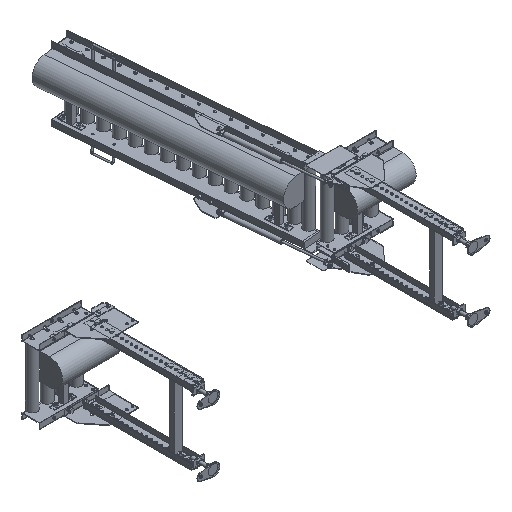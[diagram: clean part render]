
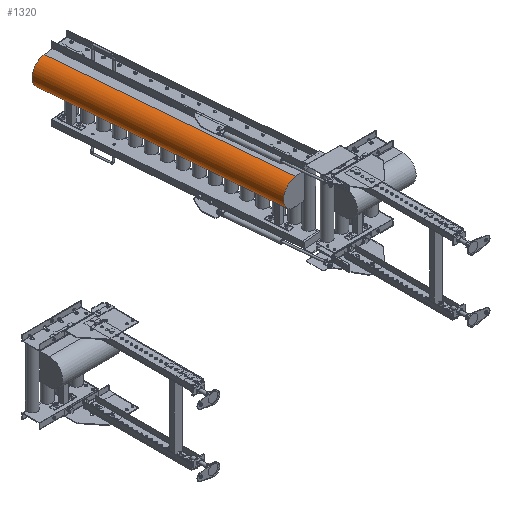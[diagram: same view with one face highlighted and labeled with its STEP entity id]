
A CAD part, isometric view. The second image highlights one B-rep face of the part: STEP entity #1320.
In plain terms, the highlighted cylindrical face has radius 66.89 mm (diameter 133.78 mm), a partial arc.
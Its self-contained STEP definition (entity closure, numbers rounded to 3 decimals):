
#1320=ADVANCED_FACE('',(#5755),#5754,.T.);
#5754=CYLINDRICAL_SURFACE('',#32102,66.89);
#5755=FACE_OUTER_BOUND('',#32103,.T.);
#32099=CARTESIAN_POINT('',(-63.444,-158.438,92.61));
#32100=DIRECTION('',(0.087,-0.996,0.));
#32101=DIRECTION('',(0.,0.,-1.));
#32102=AXIS2_PLACEMENT_3D('',#32099,#32100,#32101);
#32103=EDGE_LOOP('',(#46761,#46762,#46763,#46764));
#46761=ORIENTED_EDGE('',*,*,#59732,.F.);
#46762=ORIENTED_EDGE('',*,*,#59733,.T.);
#46763=ORIENTED_EDGE('',*,*,#59713,.T.);
#46764=ORIENTED_EDGE('',*,*,#59731,.F.);
#59713=EDGE_CURVE('',#70460,#70474,#70481,.T.);
#59731=EDGE_CURVE('',#70596,#70474,#70603,.T.);
#59732=EDGE_CURVE('',#70609,#70596,#70610,.T.);
#59733=EDGE_CURVE('',#70609,#70460,#70616,.T.);
#70460=VERTEX_POINT('',#113461);
#70474=VERTEX_POINT('',#113469);
#70481=CIRCLE('',#113476,66.89);
#70596=VERTEX_POINT('',#113538);
#70603=LINE('',#113542,#113543);
#70609=VERTEX_POINT('',#113545);
#70610=CIRCLE('',#113549,66.89);
#70616=LINE('',#113550,#113551);
#113461=CARTESIAN_POINT('',(-181.863,1196.047,159.5));
#113469=CARTESIAN_POINT('',(-181.863,1196.047,25.72));
#113473=CARTESIAN_POINT('',(-181.863,1196.047,92.61));
#113474=DIRECTION('',(0.087,-0.996,0.));
#113475=DIRECTION('',(0.,0.,-1.));
#113476=AXIS2_PLACEMENT_3D('',#113473,#113474,#113475);
#113538=CARTESIAN_POINT('',(-78.917,18.539,25.72));
#113542=CARTESIAN_POINT('',(-78.917,18.539,25.72));
#113543=VECTOR('',#113544,1182.);
#113544=DIRECTION('',(-0.087,0.996,0.));
#113545=CARTESIAN_POINT('',(-78.917,18.539,159.5));
#113546=CARTESIAN_POINT('',(-78.917,18.539,92.61));
#113547=DIRECTION('',(0.087,-0.996,0.));
#113548=DIRECTION('',(0.,0.,1.));
#113549=AXIS2_PLACEMENT_3D('',#113546,#113547,#113548);
#113550=CARTESIAN_POINT('',(-78.917,18.539,159.5));
#113551=VECTOR('',#113552,1182.);
#113552=DIRECTION('',(-0.087,0.996,0.));
